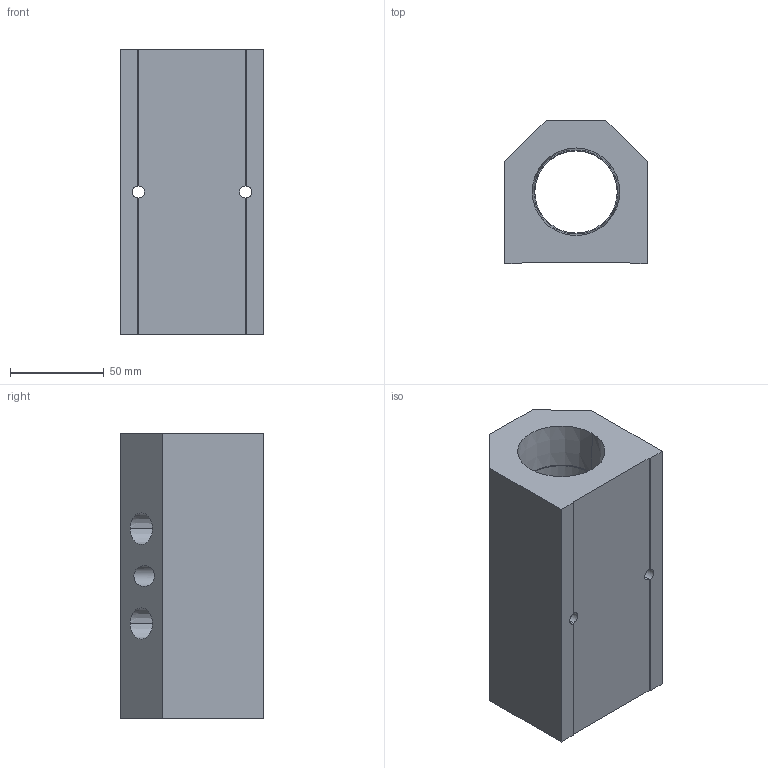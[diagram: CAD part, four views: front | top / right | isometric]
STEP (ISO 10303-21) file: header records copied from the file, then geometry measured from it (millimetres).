
FILE_DESCRIPTION (( 'STEP AP214' ), '1' );
FILE_NAME ('ALM2BCD-N6N24-152B.step', '2022-02-07T09:08:10', ( '' ), ( '' ), 'SwSTEP 2.0', 'SolidWorks 2020', '' );
FILE_SCHEMA (( 'AUTOMOTIVE_DESIGN' ));
Length unit declared in the file: millimetre
Products named in the file (1): ALM2BCD-N6N24-152B
Bounding box: 76.2 x 76.2 x 152 mm (x, y, z)
Volume: 539728.7 mm3; surface area: 76448 mm2
Topology: 1 solids, 1 shells, 309 faces, 815 edges, 542 vertices
Faces by surface type: plane 211, bspline 72, cone 16, cylinder 10
Entity records: 17593 total; most frequent: CARTESIAN_POINT 7377, ORIENTED_EDGE 1630, DIRECTION 1163, EDGE_CURVE 815, VECTOR 615, LINE 615, VERTEX_POINT 542, EDGE_LOOP 361
